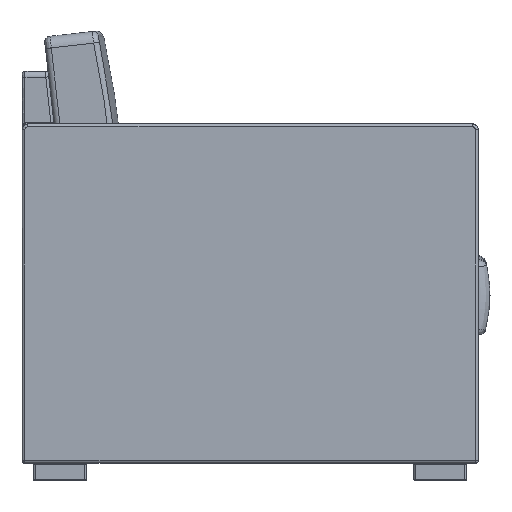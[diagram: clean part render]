
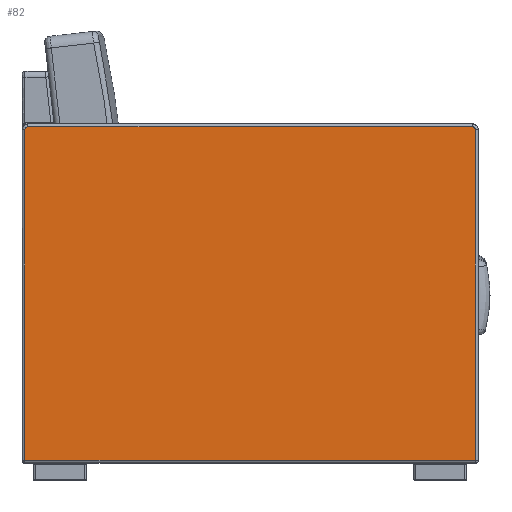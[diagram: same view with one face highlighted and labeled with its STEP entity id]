
A CAD part, left-side view. The second image highlights one B-rep face of the part: STEP entity #82.
In plain terms, the highlighted planar face has unit normal (-1, 0, 0).
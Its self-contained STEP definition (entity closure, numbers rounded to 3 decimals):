
#82=ADVANCED_FACE('',(#328),#3412,.T.);
#328=FACE_OUTER_BOUND('',#574,.T.);
#574=EDGE_LOOP('',(#978,#979,#980,#981,#982,#983));
#978=ORIENTED_EDGE('',*,*,#1964,.T.);
#979=ORIENTED_EDGE('',*,*,#1944,.T.);
#980=ORIENTED_EDGE('',*,*,#1960,.T.);
#981=ORIENTED_EDGE('',*,*,#1945,.T.);
#982=ORIENTED_EDGE('',*,*,#1946,.T.);
#983=ORIENTED_EDGE('',*,*,#1947,.T.);
#1944=EDGE_CURVE('',#2980,#2981,#2735,.T.);
#1945=EDGE_CURVE('',#2982,#2983,#2736,.T.);
#1946=EDGE_CURVE('',#2983,#2984,#2737,.T.);
#1947=EDGE_CURVE('',#2984,#2979,#2738,.T.);
#1960=EDGE_CURVE('',#2981,#2982,#2427,.T.);
#1964=EDGE_CURVE('',#2979,#2980,#2431,.T.);
#2427=(
BOUNDED_CURVE()
B_SPLINE_CURVE(2,(#6458,#6459,#6460),.UNSPECIFIED.,.F.,.F.)
B_SPLINE_CURVE_WITH_KNOTS((3,3),(-7.854,0.),.UNSPECIFIED.)
CURVE()
GEOMETRIC_REPRESENTATION_ITEM()
RATIONAL_B_SPLINE_CURVE((1.,0.707,1.))
REPRESENTATION_ITEM('')
);
#2431=(
BOUNDED_CURVE()
B_SPLINE_CURVE(2,(#6470,#6471,#6472),.UNSPECIFIED.,.F.,.F.)
B_SPLINE_CURVE_WITH_KNOTS((3,3),(-7.854,0.),.UNSPECIFIED.)
CURVE()
GEOMETRIC_REPRESENTATION_ITEM()
RATIONAL_B_SPLINE_CURVE((1.,0.707,1.))
REPRESENTATION_ITEM('')
);
#2735=B_SPLINE_CURVE_WITH_KNOTS('',1,(#6358,#6359),.UNSPECIFIED.,.F.,.F.,
(2,2),(-760.,0.),.UNSPECIFIED.);
#2736=B_SPLINE_CURVE_WITH_KNOTS('',1,(#6360,#6361),.UNSPECIFIED.,.F.,.F.,
(2,2),(-565.,0.),.UNSPECIFIED.);
#2737=B_SPLINE_CURVE_WITH_KNOTS('',1,(#6362,#6363),.UNSPECIFIED.,.F.,.F.,
(2,2),(-770.,0.),.UNSPECIFIED.);
#2738=B_SPLINE_CURVE_WITH_KNOTS('',1,(#6364,#6365),.UNSPECIFIED.,.F.,.F.,
(2,2),(-565.,0.),.UNSPECIFIED.);
#2979=VERTEX_POINT('',#5892);
#2980=VERTEX_POINT('',#5893);
#2981=VERTEX_POINT('',#5894);
#2982=VERTEX_POINT('',#5895);
#2983=VERTEX_POINT('',#5896);
#2984=VERTEX_POINT('',#5897);
#3412=PLANE('',#3478);
#3478=AXIS2_PLACEMENT_3D('',#4752,#3528,$);
#3528=DIRECTION('',(-1.,0.,0.));
#4752=CARTESIAN_POINT('',(-340.,-852.001,662.001));
#5892=CARTESIAN_POINT('',(-340.,-775.,600.));
#5893=CARTESIAN_POINT('',(-340.,-770.,605.));
#5894=CARTESIAN_POINT('',(-340.,-10.,605.));
#5895=CARTESIAN_POINT('',(-340.,-5.,600.));
#5896=CARTESIAN_POINT('',(-340.,-5.,35.));
#5897=CARTESIAN_POINT('',(-340.,-775.,35.));
#6358=CARTESIAN_POINT('',(-340.,-770.,605.));
#6359=CARTESIAN_POINT('',(-340.,-10.,605.));
#6360=CARTESIAN_POINT('',(-340.,-5.,600.));
#6361=CARTESIAN_POINT('',(-340.,-5.,35.));
#6362=CARTESIAN_POINT('',(-340.,-5.,35.));
#6363=CARTESIAN_POINT('',(-340.,-775.,35.));
#6364=CARTESIAN_POINT('',(-340.,-775.,35.));
#6365=CARTESIAN_POINT('',(-340.,-775.,600.));
#6458=CARTESIAN_POINT('',(-340.,-10.,605.));
#6459=CARTESIAN_POINT('',(-340.,-5.,605.));
#6460=CARTESIAN_POINT('',(-340.,-5.,600.));
#6470=CARTESIAN_POINT('',(-340.,-775.,600.));
#6471=CARTESIAN_POINT('',(-340.,-775.,605.));
#6472=CARTESIAN_POINT('',(-340.,-770.,605.));
